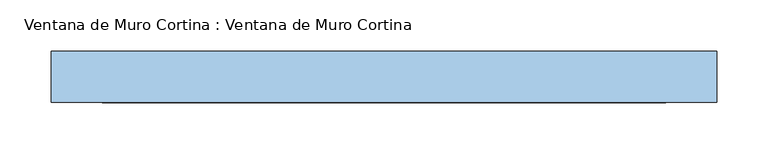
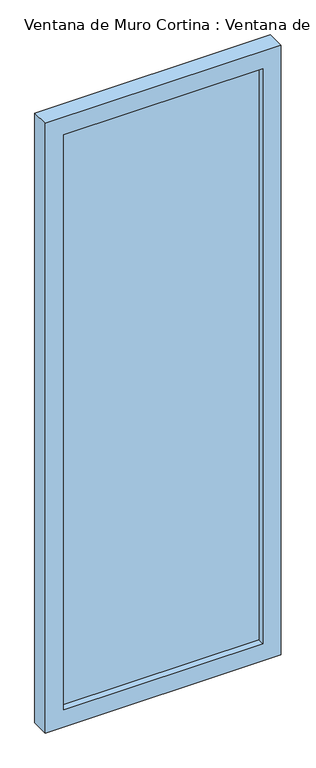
"""IFC4 building model written with IfcOpenShell, lengths in millimetres: window geometry, Ventana de Muro Cortina : Ventana de Muro Cortina."""

from ifc_helpers import new_model, si_unit, frame, origin, place, context, project, spatial, polyline, outline, extrude, source, transform, mapped, element, save


def ventana_de_muro_cortina_ventana_de_muro_cortina_55f6ba8d(model_context):
    return source(origin(), model_context, "Body", "SweptSolid", [
        extrude(outline(polyline([(275.0, -30.95), (-275.0, -30.95), (-275.0, -18.25), (275.0, -18.25), (275.0, -30.95)])), frame((0.0, 0.0, 50.0), z_axis=(0.0, 0.0, 1.0), x_axis=(1.0, 0.0, 0.0)), (0.0, 0.0, 1.0), 1675.0),
        extrude(outline(polyline([(1775.0, -325.0), (0.0, -325.0), (0.0, 325.0), (1775.0, 325.0), (1775.0, -325.0)]), holes=[polyline([(1725.0, -275.0), (1725.0, 275.0), (50.0, 275.0), (50.0, -275.0), (1725.0, -275.0)])]), frame((0.0, -50.0, 0.0), z_axis=(0.0, 1.0, 0.0), x_axis=(0.0, 0.0, 1.0)), (0.0, 0.0, 1.0), 50.0),
    ])


if __name__ == "__main__":
    model = new_model("IFC4")
    model_context = context("Model", 3, world=origin())
    ifc_project = project(units=[si_unit("LENGTHUNIT", "METRE", prefix="MILLI")], contexts=[model_context])
    site = spatial("IfcSite", under=ifc_project)
    building = spatial("IfcBuilding", under=site)
    placement = place(None, origin())
    ventana_de_muro_cortina_ventana_de_muro_cortina_shape = ventana_de_muro_cortina_ventana_de_muro_cortina_55f6ba8d(model_context)
    element("IfcWindow", 1, ObjectType="Ventana de Muro Cortina : Ventana de Muro Cortina", at=placement, inside=building, context=model_context, shape_type="MappedRepresentation", body=[
        mapped(ventana_de_muro_cortina_ventana_de_muro_cortina_shape, transform((0.0, 0.0, 0.0), x_axis=(1.0, 0.0, 0.0), y_axis=(0.0, 1.0, 0.0), z_axis=(0.0, 0.0, 1.0))),
    ])
    save(model, "model.ifc")
